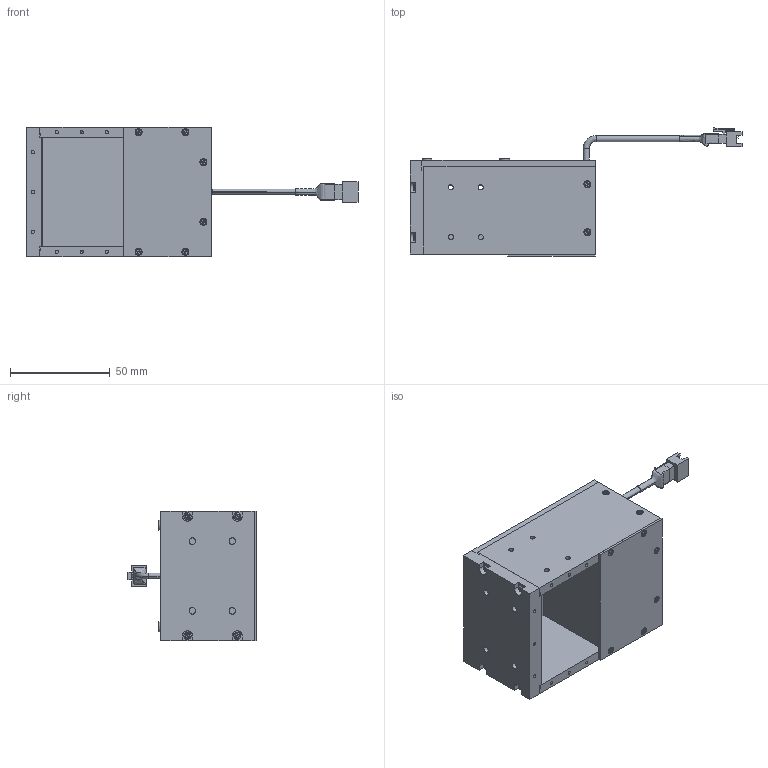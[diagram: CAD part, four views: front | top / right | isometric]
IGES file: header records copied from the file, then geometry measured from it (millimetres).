
Start section: SolidWorks IGES file using analytic representation for surfaces
Global section: file name: C:\Users\user\Downloads\TEMP_STEP\VCO-5542_Drawing_L1165A-A00100.IGS; native system: SolidWorks 2018; preprocessor: SolidWorks 2018; author: user; date: 231220.204728; units: millimetre
Bounding box: 166.6 x 64.45 x 65 mm (x, y, z)
Surface area: 44101.3 mm2 (no closed solid volume)
Topology: 0 solids, 0 shells, 691 faces, 6581 edges, 6577 vertices
Faces by surface type: bspline 519, revolution 172
